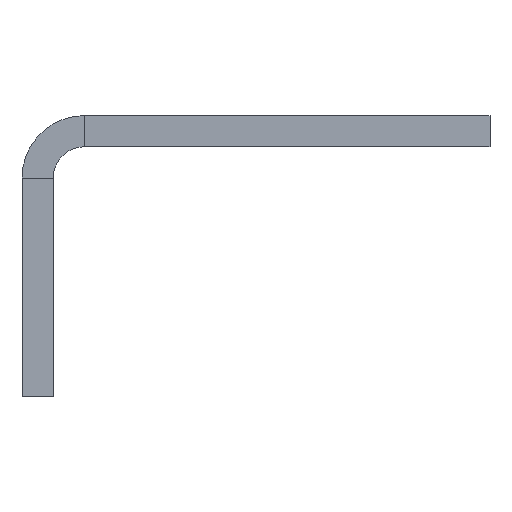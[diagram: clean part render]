
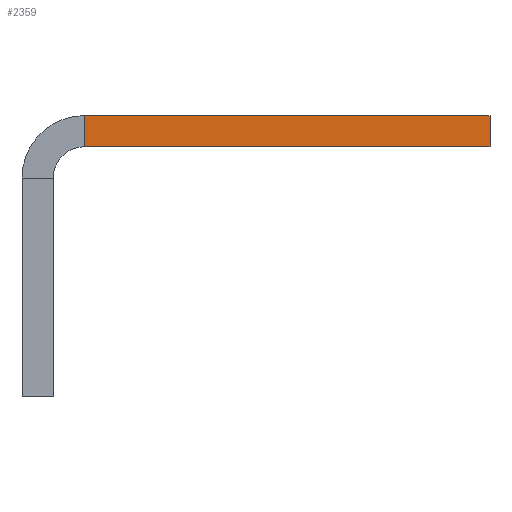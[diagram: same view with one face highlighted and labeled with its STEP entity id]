
A CAD part, front view. The second image highlights one B-rep face of the part: STEP entity #2359.
In plain terms, the highlighted planar face has unit normal (0, -1, 0).
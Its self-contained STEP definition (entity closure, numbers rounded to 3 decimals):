
#7 = CARTESIAN_POINT ( 'NONE',  ( 28., -385., 16. ) ) ;
#13 = CARTESIAN_POINT ( 'NONE',  ( 2., -385., 18. ) ) ;
#49 = LINE ( 'NONE', #2327, #1036 ) ;
#150 = DIRECTION ( 'NONE',  ( 1., 0., 0. ) ) ;
#211 = LINE ( 'NONE', #1805, #1645 ) ;
#256 = AXIS2_PLACEMENT_3D ( 'NONE', #603, #3693, #1882 ) ;
#354 = DIRECTION ( 'NONE',  ( 0., 0., 1. ) ) ;
#357 = CARTESIAN_POINT ( 'NONE',  ( 2., -385., 18. ) ) ;
#430 = EDGE_CURVE ( 'NONE', #1512, #2673, #49, .T. ) ;
#472 = EDGE_CURVE ( 'NONE', #1512, #1023, #3179, .T. ) ;
#503 = CARTESIAN_POINT ( 'NONE',  ( 28., -385., 18. ) ) ;
#603 = CARTESIAN_POINT ( 'NONE',  ( 2., -385., 14. ) ) ;
#612 = VERTEX_POINT ( 'NONE', #1201 ) ;
#789 = VECTOR ( 'NONE', #354, 1000. ) ;
#1023 = VERTEX_POINT ( 'NONE', #1423 ) ;
#1036 = VECTOR ( 'NONE', #2941, 1000. ) ;
#1201 = CARTESIAN_POINT ( 'NONE',  ( 28., -385., 16. ) ) ;
#1288 = LINE ( 'NONE', #7, #789 ) ;
#1325 = EDGE_CURVE ( 'NONE', #1023, #612, #211, .T. ) ;
#1332 = EDGE_LOOP ( 'NONE', ( #2900, #1410, #3175, #3281 ) ) ;
#1410 = ORIENTED_EDGE ( 'NONE', *, *, #472, .T. ) ;
#1423 = CARTESIAN_POINT ( 'NONE',  ( 2., -385., 16. ) ) ;
#1512 = VERTEX_POINT ( 'NONE', #13 ) ;
#1545 = PLANE ( 'NONE',  #256 ) ;
#1645 = VECTOR ( 'NONE', #150, 1000. ) ;
#1805 = CARTESIAN_POINT ( 'NONE',  ( 0., -385., 16. ) ) ;
#1882 = DIRECTION ( 'NONE',  ( -1., 0., 0. ) ) ;
#1965 = EDGE_CURVE ( 'NONE', #612, #2673, #1288, .T. ) ;
#2246 = DIRECTION ( 'NONE',  ( 0., 0., -1. ) ) ;
#2327 = CARTESIAN_POINT ( 'NONE',  ( 0., -385., 18. ) ) ;
#2359 = ADVANCED_FACE ( 'NONE', ( #3394 ), #1545, .T. ) ;
#2673 = VERTEX_POINT ( 'NONE', #503 ) ;
#2900 = ORIENTED_EDGE ( 'NONE', *, *, #430, .F. ) ;
#2941 = DIRECTION ( 'NONE',  ( 1., 0., 0. ) ) ;
#3175 = ORIENTED_EDGE ( 'NONE', *, *, #1325, .T. ) ;
#3179 = LINE ( 'NONE', #357, #3360 ) ;
#3281 = ORIENTED_EDGE ( 'NONE', *, *, #1965, .T. ) ;
#3360 = VECTOR ( 'NONE', #2246, 1000. ) ;
#3394 = FACE_OUTER_BOUND ( 'NONE', #1332, .T. ) ;
#3693 = DIRECTION ( 'NONE',  ( 0., -1., 0. ) ) ;
